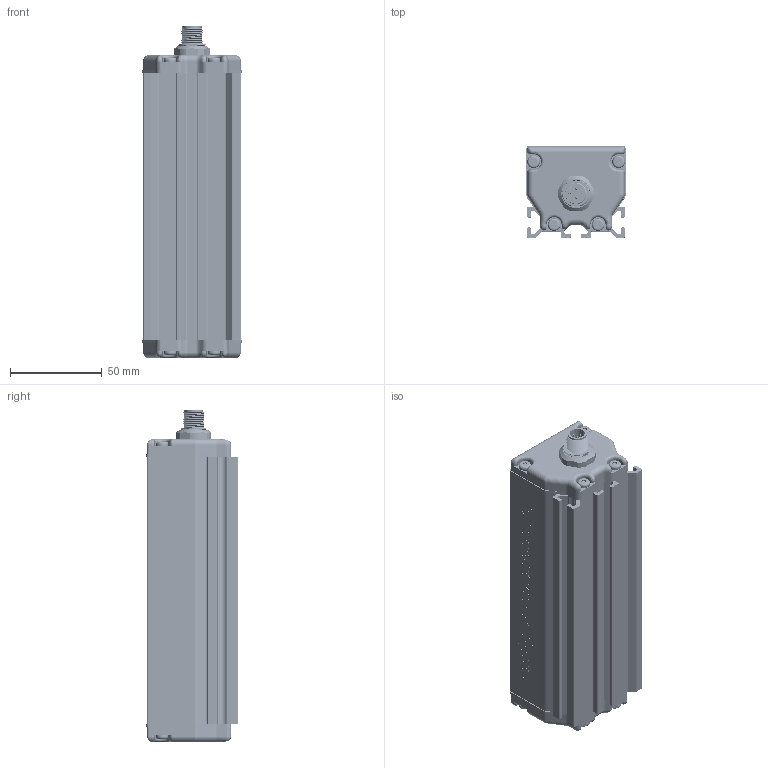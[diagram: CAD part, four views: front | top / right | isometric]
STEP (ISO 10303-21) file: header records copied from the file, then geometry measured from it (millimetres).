
FILE_DESCRIPTION (( 'STEP AP214' ), '1' );
FILE_NAME ('LSR150.STEP', '2023-05-03T14:02:08', ( '' ), ( '' ), 'SwSTEP 2.0', 'SolidWorks 2023', '' );
FILE_SCHEMA (( 'AUTOMOTIVE_DESIGN' ));
Length unit declared in the file: millimetre
Products named in the file (33): CBL0080; HSG0205 LSR END CAP CONN; 68021-x10; M12 CONNECTOR_Male; LSR 150 SINGLE ROW LED BOARD_LSR 150 SINGLE ROW LED BOARD; GASKET 2_150; LTF EXT0285_EXT0297 LSR150 (146mm); S7B-XH-A-1.step; SSW_105_02_T_D_RA_3; WHITE WIRE; BLUE SHORT WIRE; (6-32 - 1_2 THREAD FORMING) (SC0136) 94209A520_THREAD-FORMING SCREW FOR SOFT METAL_94209A520; M12_NUT_M12_NUT; SSW_105_02_T_D_RA; BROWN SHORT WIRE; GSKT0021 LTF END CAP GASKET; c-2106091-1-a_c-2106091-1-a; BLACK WIRE; BLUE WIRE; TINA2-SERIES_TINA2-SERIES; SSW_105_02_T_D_RA_5; SPLICE HEATSHRINK; END CAP CONN ASY; BROWN WIRE; LSR 150 DRIVER ASY_LSR 150 DRIVER ASY; GRAY WIRE; JST-xH 7pin Female; LSR 150 SINGLE ROW LED BRD_LSR 150 SINGLE ROW LED BRD; LTF CLEAR LENS COVER_146 (LSR150); LTF 150 DRIVER BOARD_LTF 150 DRIVER BOARD; END CAP ASY; LSR150; HSG0204 LSR END CAP NON-CONN
Assembly tree (49 placements, depth 4):
  LSR150
    LTF EXT0285_EXT0297 LSR150 (146mm)
    LTF CLEAR LENS COVER_146 (LSR150)
    GASKET 2_150  x2
    END CAP CONN ASY
      HSG0205 LSR END CAP CONN
      CBL0080
        GRAY WIRE
        BLACK WIRE
        WHITE WIRE
        JST-xH 7pin Female
        BLUE SHORT WIRE
        BROWN SHORT WIRE
        BLUE WIRE  x2
        BROWN WIRE  x2
        SPLICE HEATSHRINK  x2
        M12 CONNECTOR_Male
      GSKT0021 LTF END CAP GASKET
      M12_NUT_M12_NUT
    END CAP ASY
      HSG0204 LSR END CAP NON-CONN
      GSKT0021 LTF END CAP GASKET
    (6-32 - 1_2 THREAD FORMING) (SC0136) 94209A520_THREAD-FORMING SCREW FOR SOFT METAL_94209A520  x8
    LSR 150 DRIVER ASY_LSR 150 DRIVER ASY
      LTF 150 DRIVER BOARD_LTF 150 DRIVER BOARD
      68021-x10
      S7B-XH-A-1.step
      SSW_105_02_T_D_RA
        SSW_105_02_T_D_RA_3
        SSW_105_02_T_D_RA_5
    LSR 150 SINGLE ROW LED BRD_LSR 150 SINGLE ROW LED BRD
      LSR 150 SINGLE ROW LED BOARD_LSR 150 SINGLE ROW LED BOARD
      TINA2-SERIES_TINA2-SERIES  x6
      c-2106091-1-a_c-2106091-1-a
Bounding box: 54.2 x 50 x 181.2 mm (x, y, z)
Volume: 178684.4 mm3; surface area: 160162.8 mm2
Topology: 54 solids, 86 shells, 5831 faces, 15762 edges, 10198 vertices
Faces by surface type: cylinder 2159, plane 1790, bspline 1420, cone 388, torus 66, sphere 8
Entity records: 147254 total; most frequent: CARTESIAN_POINT 61075, ORIENTED_EDGE 16636, DIRECTION 12543, EDGE_CURVE 8338, VERTEX_POINT 5439, VECTOR 4587, LINE 4587, AXIS2_PLACEMENT_3D 3978
